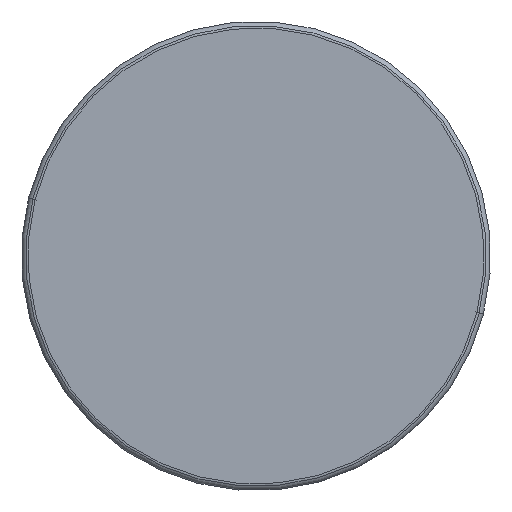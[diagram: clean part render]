
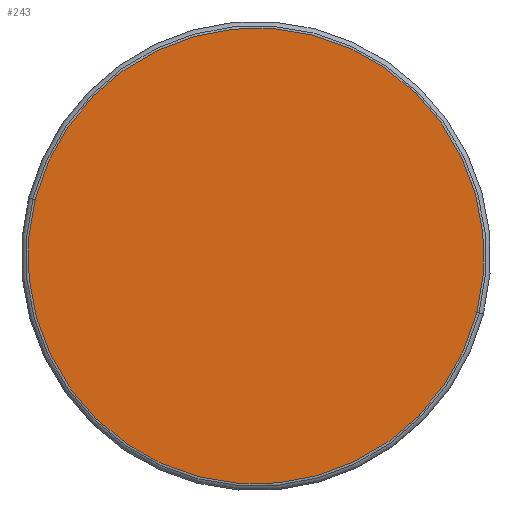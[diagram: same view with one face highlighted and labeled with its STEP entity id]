
A CAD part, front view. The second image highlights one B-rep face of the part: STEP entity #243.
In plain terms, the highlighted planar face has unit normal (0, -1, 0).
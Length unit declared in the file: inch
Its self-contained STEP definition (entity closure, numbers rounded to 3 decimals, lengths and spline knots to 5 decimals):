
#5 = VERTEX_POINT ( 'NONE', #52 ) ;
#10 = DIRECTION ( 'NONE',  ( 0., -1., 0. ) ) ;
#17 = ORIENTED_EDGE ( 'NONE', *, *, #146, .T. ) ;
#28 = AXIS2_PLACEMENT_3D ( 'NONE', #54, #198, #168 ) ;
#52 = CARTESIAN_POINT ( 'NONE',  ( -0.16665, 0., 0.04255 ) ) ;
#54 = CARTESIAN_POINT ( 'NONE',  ( 0., 0., 0. ) ) ;
#68 = ORIENTED_EDGE ( 'NONE', *, *, #262, .T. ) ;
#69 = FACE_OUTER_BOUND ( 'NONE', #134, .T. ) ;
#81 = AXIS2_PLACEMENT_3D ( 'NONE', #193, #263, #97 ) ;
#91 = PLANE ( 'NONE',  #81 ) ;
#97 = DIRECTION ( 'NONE',  ( 1., 0., 0. ) ) ;
#113 = CIRCLE ( 'NONE', #28, 0.172 ) ;
#118 = CIRCLE ( 'NONE', #178, 0.172 ) ;
#134 = EDGE_LOOP ( 'NONE', ( #68, #17 ) ) ;
#146 = EDGE_CURVE ( 'NONE', #173, #5, #113, .T. ) ;
#156 = CARTESIAN_POINT ( 'NONE',  ( 0., 0., 0. ) ) ;
#168 = DIRECTION ( 'NONE',  ( -0.969, 0., 0.247 ) ) ;
#173 = VERTEX_POINT ( 'NONE', #213 ) ;
#178 = AXIS2_PLACEMENT_3D ( 'NONE', #156, #10, #261 ) ;
#193 = CARTESIAN_POINT ( 'NONE',  ( 0., 0., 0. ) ) ;
#198 = DIRECTION ( 'NONE',  ( 0., -1., 0. ) ) ;
#213 = CARTESIAN_POINT ( 'NONE',  ( 0.16665, 0., -0.04255 ) ) ;
#243 = ADVANCED_FACE ( 'NONE', ( #69 ), #91, .T. ) ;
#261 = DIRECTION ( 'NONE',  ( -0.969, 0., 0.247 ) ) ;
#262 = EDGE_CURVE ( 'NONE', #5, #173, #118, .T. ) ;
#263 = DIRECTION ( 'NONE',  ( 0., -1., 0. ) ) ;
